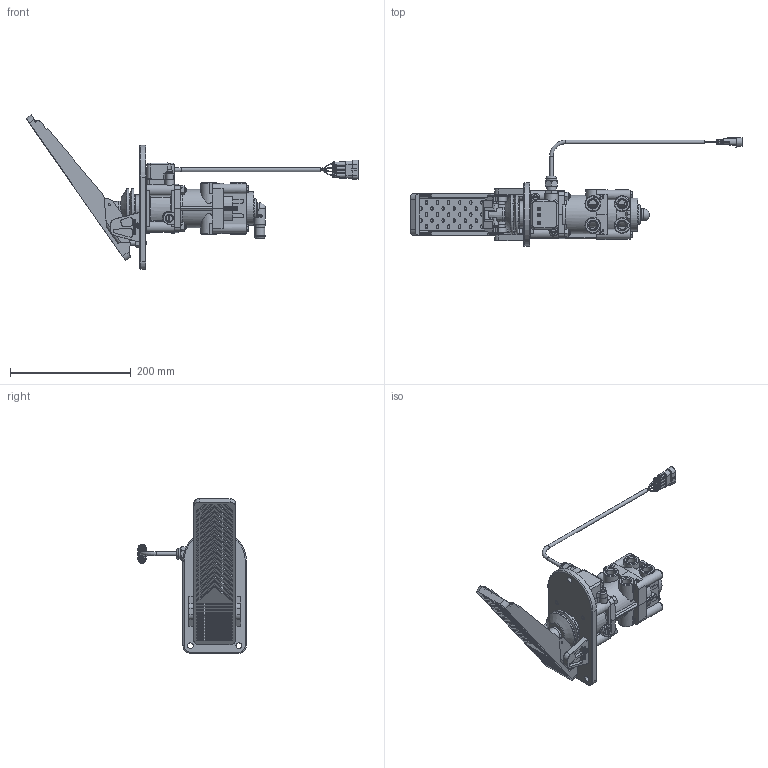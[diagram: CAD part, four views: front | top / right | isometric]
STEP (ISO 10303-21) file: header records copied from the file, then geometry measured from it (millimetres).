
FILE_DESCRIPTION(/* description */ (''),/* implementation_level */ '2;1');
FILE_NAME(/* name */ '8199.35.14.208_00-Кран тормозной двухконтурный с электрическим блоком_1.stp',/* time_stamp */ '2023-09-28T17:37:11+03:00',/* author */ (''),/* organization */ (''),/* preprocessor_version */ 'ST-DEVELOPER v16.7',/* originating_system */ 'SIEMENS PLM Software NX 1899',/* authorisation */ '');
FILE_SCHEMA (('AUTOMOTIVE_DESIGN { 1 0 10303 214 3 1 1 1 }'));
Products named in the file (1): kuzmAA883F7Eopiw
Bounding box: 549.2 x 179.98 x 255.78 mm (x, y, z)
Volume: 899841 mm3; surface area: 433953.3 mm2
Topology: 2 solids, 70 shells, 3524 faces, 9080 edges, 5867 vertices
Faces by surface type: plane 2065, cylinder 945, torus 179, cone 167, bspline 100, extrusion 62, sphere 6
Full cylindrical faces by diameter (mm): 1.4 x8, 2 x1, 2.5 x2, 3 x2, 3.2 x1, 4 x5, 4.2 x2, 4.917 x7, 5 x2, 5.3 x2, 5.323 x1, 5.5 x14, 6 x7, 6.2 x2, 6.8 x36, 6.92 x5, 7 x1, 8 x48, 9 x6, 9.2 x4, 9.5 x3, 10 x3, 10.376 x1, 10.4 x1, 10.5 x1, 12 x2, 13 x4, 14.376 x8, 14.4 x1, 15.8 x1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
Entity records: 114265 total; most frequent: CARTESIAN_POINT 31552, ORIENTED_EDGE 16936, DIRECTION 16660, EDGE_CURVE 8468, AXIS2_PLACEMENT_3D 5961, VERTEX_POINT 5681, VECTOR 4738, LINE 4676
